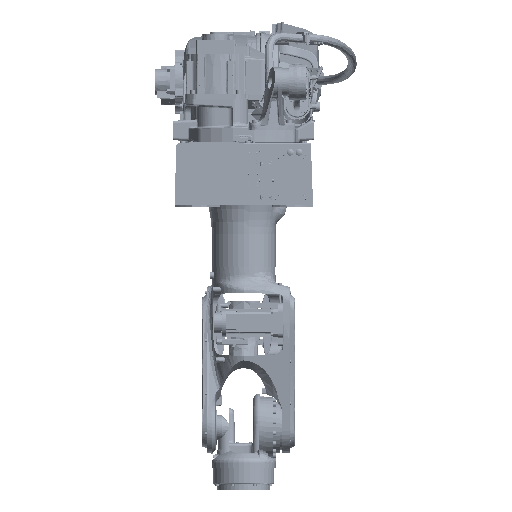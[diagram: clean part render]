
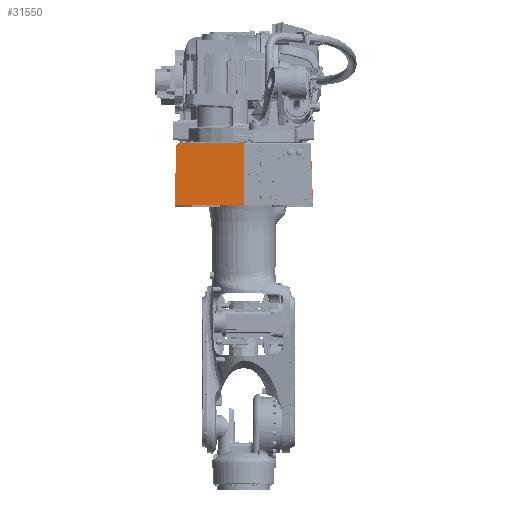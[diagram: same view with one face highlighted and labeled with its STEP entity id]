
A CAD part, front view. The second image highlights one B-rep face of the part: STEP entity #31550.
In plain terms, the highlighted planar face has unit normal (0, -1, 0).
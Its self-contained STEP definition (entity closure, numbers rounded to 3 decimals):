
#25818=CARTESIAN_POINT('Vertex',(249.302,-500.,5.)) ;
#25822=CARTESIAN_POINT('Control Point',(-249.302,-500.,5.)) ;
#25823=CARTESIAN_POINT('Control Point',(249.302,-500.,5.)) ;
#25824=CARTESIAN_POINT('Vertex',(-249.302,-500.,5.)) ;
#31476=CARTESIAN_POINT('Control Point',(-250.,-500.,25.)) ;
#31477=CARTESIAN_POINT('Control Point',(-249.302,-500.,5.)) ;
#31478=CARTESIAN_POINT('Vertex',(-250.,-500.,25.)) ;
#31495=CARTESIAN_POINT('Axis2P3D Location',(-250.,-500.,0.)) ;
#31500=CARTESIAN_POINT('Line Origine',(249.651,-500.,15.)) ;
#31504=CARTESIAN_POINT('Vertex',(250.,-500.,25.)) ;
#31507=CARTESIAN_POINT('Line Origine',(246.54,-500.,124.087)) ;
#31511=CARTESIAN_POINT('Vertex',(243.08,-500.,223.174)) ;
#31514=CARTESIAN_POINT('Axis2P3D Location',(238.083,-500.,223.)) ;
#31518=CARTESIAN_POINT('Vertex',(238.083,-500.,228.)) ;
#31521=CARTESIAN_POINT('Line Origine',(0.,-500.,228.)) ;
#31525=CARTESIAN_POINT('Vertex',(-238.083,-500.,228.)) ;
#31528=CARTESIAN_POINT('Axis2P3D Location',(-238.083,-500.,223.)) ;
#31532=CARTESIAN_POINT('Vertex',(-243.08,-500.,223.174)) ;
#31535=CARTESIAN_POINT('Line Origine',(-246.54,-500.,124.087)) ;
#31496=DIRECTION('Axis2P3D Direction',(0.,-1.,0.)) ;
#31497=DIRECTION('Axis2P3D XDirection',(1.,0.,0.)) ;
#31501=DIRECTION('Vector Direction',(-0.035,0.,-0.999)) ;
#31508=DIRECTION('Vector Direction',(-0.035,0.,0.999)) ;
#31515=DIRECTION('Axis2P3D Direction',(0.,-1.,0.)) ;
#31522=DIRECTION('Vector Direction',(1.,0.,0.)) ;
#31529=DIRECTION('Axis2P3D Direction',(0.,-1.,0.)) ;
#31536=DIRECTION('Vector Direction',(0.035,0.,0.999)) ;
#31498=AXIS2_PLACEMENT_3D('Plane Axis2P3D',#31495,#31496,#31497) ;
#31516=AXIS2_PLACEMENT_3D('Circle Axis2P3D',#31514,#31515,$) ;
#31530=AXIS2_PLACEMENT_3D('Circle Axis2P3D',#31528,#31529,$) ;
#31541=ORIENTED_EDGE('',*,*,#31506,.T.) ;
#31542=ORIENTED_EDGE('',*,*,#31513,.T.) ;
#31543=ORIENTED_EDGE('',*,*,#31520,.F.) ;
#31544=ORIENTED_EDGE('',*,*,#31527,.F.) ;
#31545=ORIENTED_EDGE('',*,*,#31534,.F.) ;
#31546=ORIENTED_EDGE('',*,*,#31539,.F.) ;
#31547=ORIENTED_EDGE('',*,*,#31480,.T.) ;
#31548=ORIENTED_EDGE('',*,*,#25826,.T.) ;
#31502=VECTOR('Line Direction',#31501,1.) ;
#31509=VECTOR('Line Direction',#31508,1.) ;
#31523=VECTOR('Line Direction',#31522,1.) ;
#31537=VECTOR('Line Direction',#31536,1.) ;
#31550=ADVANCED_FACE('BASE',(#31549),#31499,.T.) ;
#25821=B_SPLINE_CURVE_WITH_KNOTS('',1,(#25822,#25823),.UNSPECIFIED.,.F.,.U.,(2,2),(0.698,499.302),.UNSPECIFIED.) ;
#31475=B_SPLINE_CURVE_WITH_KNOTS('',1,(#31476,#31477),.UNSPECIFIED.,.F.,.U.,(2,2),(-10.006,10.006),.UNSPECIFIED.) ;
#31517=CIRCLE('generated circle',#31516,5.) ;
#31531=CIRCLE('generated circle',#31530,5.) ;
#25826=EDGE_CURVE('',#25825,#25819,#25821,.T.) ;
#31480=EDGE_CURVE('',#31479,#25825,#31475,.T.) ;
#31506=EDGE_CURVE('',#25819,#31505,#31503,.F.) ;
#31513=EDGE_CURVE('',#31505,#31512,#31510,.T.) ;
#31520=EDGE_CURVE('',#31519,#31512,#31517,.F.) ;
#31527=EDGE_CURVE('',#31526,#31519,#31524,.T.) ;
#31534=EDGE_CURVE('',#31533,#31526,#31531,.F.) ;
#31539=EDGE_CURVE('',#31479,#31533,#31538,.T.) ;
#31540=EDGE_LOOP('',(#31541,#31542,#31543,#31544,#31545,#31546,#31547,#31548)) ;
#31549=FACE_OUTER_BOUND('',#31540,.T.) ;
#31503=LINE('Line',#31500,#31502) ;
#31510=LINE('Line',#31507,#31509) ;
#31524=LINE('Line',#31521,#31523) ;
#31538=LINE('Line',#31535,#31537) ;
#31499=PLANE('',#31498) ;
#25819=VERTEX_POINT('',#25818) ;
#25825=VERTEX_POINT('',#25824) ;
#31479=VERTEX_POINT('',#31478) ;
#31505=VERTEX_POINT('',#31504) ;
#31512=VERTEX_POINT('',#31511) ;
#31519=VERTEX_POINT('',#31518) ;
#31526=VERTEX_POINT('',#31525) ;
#31533=VERTEX_POINT('',#31532) ;
